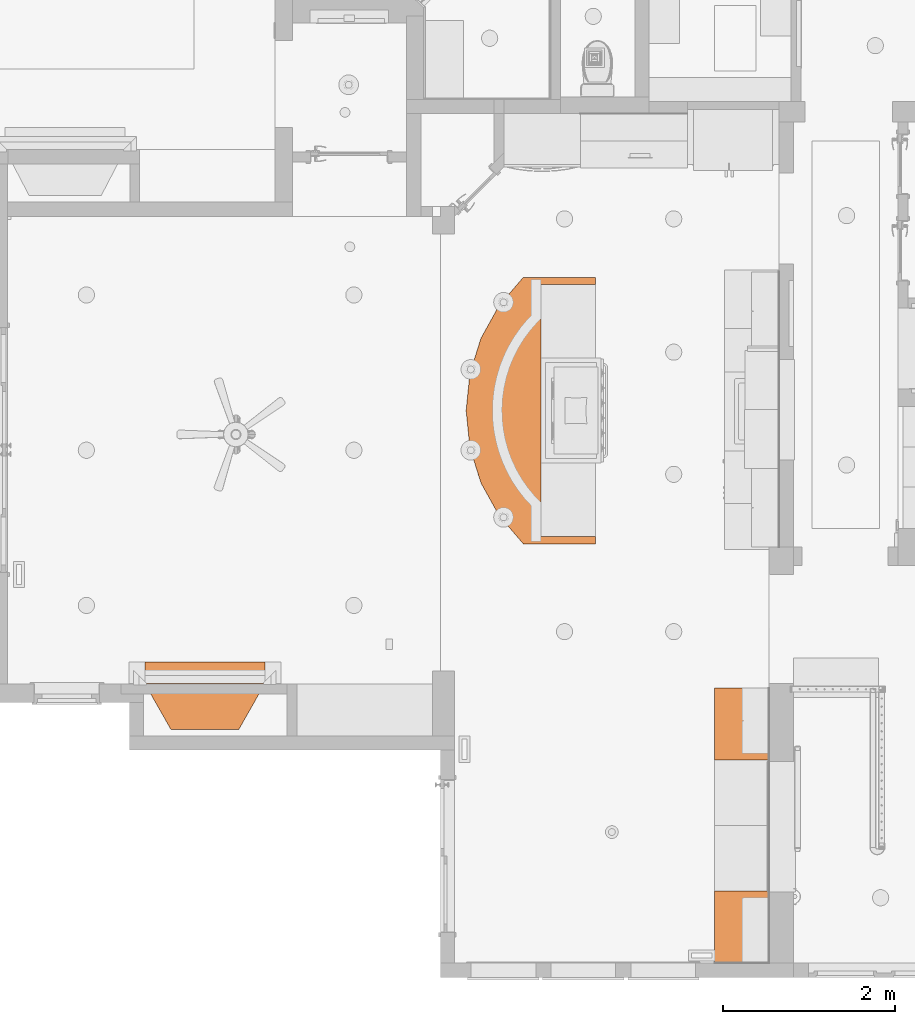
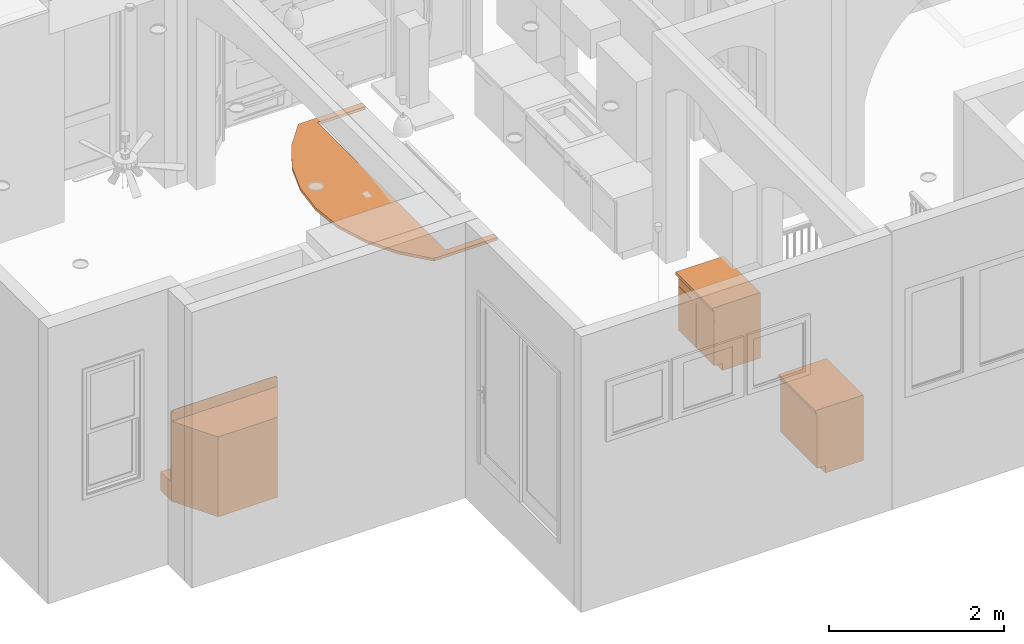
# One storey, part 61 of 77: 4 proxies.
"""IFC2X3 building model written with IfcOpenShell, lengths in inches."""

from ifc_helpers import new_model, entity, si_unit, converted_unit, derived_unit, money_unit, direction, frame, origin_with_axes, place, context, subcontext, project, spatial, faceted_brep, material, type_object, element, save


model = new_model("IFC2X3")

# Units and contexts
model_context = context("Model", 3, precision=0.000393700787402, world=origin_with_axes(), true_north=direction((0.0, 1.0)))
body_context = subcontext(model_context, "Body", "Model", "MODEL_VIEW")
ifc_project = project(units=[converted_unit("LENGTHUNIT", "INCH", entity("IfcPositiveLengthMeasure", 0.0254), si_unit("LENGTHUNIT", "METRE"), dimensions=[1, 0, 0, 0, 0, 0, 0]), converted_unit("AREAUNIT", "SQUARE_FOOT", entity("IfcPositiveLengthMeasure", 0.09290304), si_unit("AREAUNIT", "SQUARE_METRE"), dimensions=[2, 0, 0, 0, 0, 0, 0]), si_unit("PLANEANGLEUNIT", "RADIAN"), si_unit("SOLIDANGLEUNIT", "STERADIAN"), money_unit("USD"), converted_unit("TIMEUNIT", "Year", entity("IfcTimeMeasure", 31556926.0), si_unit("TIMEUNIT", "SECOND"), dimensions=[0, 0, 1, 0, 0, 0, 0]), si_unit("MASSUNIT", "GRAM", prefix="KILO"), si_unit("THERMODYNAMICTEMPERATUREUNIT", "DEGREE_CELSIUS"), si_unit("LUMINOUSINTENSITYUNIT", "LUMEN"), si_unit("ENERGYUNIT", "JOULE", prefix="MEGA"), derived_unit("THERMALCONDUCTANCEUNIT", [(si_unit("POWERUNIT", "WATT"), 1), (si_unit("LENGTHUNIT", "METRE"), -1), (si_unit("THERMODYNAMICTEMPERATUREUNIT", "KELVIN"), -1)]), derived_unit("SPECIFICHEATCAPACITYUNIT", [(si_unit("ENERGYUNIT", "JOULE"), 1), (si_unit("MASSUNIT", "GRAM", prefix="KILO"), -1), (si_unit("THERMODYNAMICTEMPERATUREUNIT", "KELVIN"), -1)]), derived_unit("MASSDENSITYUNIT", [(si_unit("MASSUNIT", "GRAM", prefix="KILO"), 1), (si_unit("VOLUMEUNIT", "CUBIC_METRE"), -1)])], contexts=[model_context])

# Site, building, storey
site_placement = place(None, origin_with_axes())
site = spatial("IfcSite", under=ifc_project, at=site_placement, Name="Site", CompositionType="ELEMENT")
building_placement = place(site_placement, origin_with_axes())
building = spatial("IfcBuilding", under=site, at=building_placement, Name="Building", CompositionType="ELEMENT")
storey_placement = place(building_placement, frame((0.0, 0.0, 127.952755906), z_axis=(0.0, 0.0, 1.0), x_axis=(1.0, 0.0, 0.0)))
storey = spatial("IfcBuildingStorey", under=building, at=storey_placement, Name="Second Floor", CompositionType="ELEMENT", Elevation=127.953)

# Proxies
building_element_proxy_type_1 = type_object("IfcBuildingElementProxyType", Name="Base Cabinet Block 25", PredefinedType="NOTDEFINED")
proxy_1_placement = place(storey_placement, frame((632.966021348, 52.5646529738, 0.0), z_axis=(0.0, 0.0, 1.0), x_axis=(0.0, -1.0, 0.0)))
element("IfcBuildingElementProxy", 1, at=proxy_1_placement, inside=storey, type_object=building_element_proxy_type_1, Name="OBJ-16", context=body_context, shape_type="Brep", body=[
    faceted_brep([(0.0, -25.0000002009, 34.5236220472), (33.0708661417, -25.0000002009, 34.5236220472), (33.0708661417, -25.0000002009, 36.0236220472), (0.0, -25.0000002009, 36.0236220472), (0.0, 0.0, 34.5236220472), (33.0708661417, 0.0, 34.5236220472), (33.0708661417, 0.0, 36.0236220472), (0.0, 0.0, 36.0236220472)], [[[0, 1, 2, 3]], [[0, 4, 5, 1]], [[1, 5, 6, 2]], [[3, 2, 6, 7]], [[4, 0, 3, 7]], [[5, 4, 7, 6]]]),
    faceted_brep([(0.75, -23.2500002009, 28.125), (32.3208661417, -23.2500002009, 28.125), (32.3208661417, -23.2500002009, 28.875), (0.75, -23.2500002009, 28.875), (0.75, -0.75, 28.125), (32.3208661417, -0.75, 28.125), (32.3208661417, -0.75, 28.875), (0.75, -0.75, 28.875)], [[[0, 1, 2, 3]], [[0, 4, 5, 1]], [[1, 5, 6, 2]], [[3, 2, 6, 7]], [[4, 0, 3, 7]], [[5, 4, 7, 6]]]),
    faceted_brep([(32.124015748, -23.2500002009, 29.0718503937), (0.946850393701, -23.2500002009, 29.0718503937), (0.946850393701, -0.75, 29.0718503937), (32.124015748, -0.75, 29.0718503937), (32.124015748, -23.2500002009, 29.4655511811), (0.946850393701, -23.2500002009, 29.4655511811), (0.946850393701, -0.75, 29.4655511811), (32.124015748, -0.75, 29.4655511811)], [[[0, 1, 2, 3]], [[1, 0, 4, 5]], [[2, 1, 5, 6]], [[3, 2, 6, 7]], [[0, 3, 7, 4]], [[5, 4, 7, 6]]]),
    faceted_brep([(1.7342519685, -23.2500002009, 29.4655511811), (0.946850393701, -23.2500002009, 29.4655511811), (0.946850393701, -0.75, 29.4655511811), (1.7342519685, -0.75, 29.4655511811), (1.7342519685, -23.2500002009, 33.5767716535), (0.946850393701, -23.2500002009, 33.5767716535), (0.946850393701, -0.75, 33.5767716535), (1.7342519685, -0.75, 33.5767716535)], [[[0, 1, 2, 3]], [[1, 0, 4, 5]], [[2, 1, 5, 6]], [[3, 2, 6, 7]], [[0, 3, 7, 4]], [[5, 4, 7, 6]]]),
    faceted_brep([(32.124015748, -23.2500002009, 29.4655511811), (31.3366141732, -23.2500002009, 29.4655511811), (31.3366141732, -0.75, 29.4655511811), (32.124015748, -0.75, 29.4655511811), (32.124015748, -23.2500002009, 33.5767716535), (31.3366141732, -23.2500002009, 33.5767716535), (31.3366141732, -0.75, 33.5767716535), (32.124015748, -0.75, 33.5767716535)], [[[0, 1, 2, 3]], [[1, 0, 4, 5]], [[2, 1, 5, 6]], [[3, 2, 6, 7]], [[0, 3, 7, 4]], [[5, 4, 7, 6]]]),
    faceted_brep([(31.3366141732, -1.3405511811, 29.4655511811), (1.7342519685, -1.3405511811, 29.4655511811), (1.7342519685, -0.946850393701, 29.4655511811), (31.3366141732, -0.946850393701, 29.4655511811), (31.3366141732, -1.3405511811, 33.5767716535), (1.7342519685, -1.3405511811, 33.5767716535), (1.7342519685, -0.946850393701, 33.5767716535), (31.3366141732, -0.946850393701, 33.5767716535)], [[[0, 1, 2, 3]], [[1, 0, 4, 5]], [[2, 1, 5, 6]], [[3, 2, 6, 7]], [[0, 3, 7, 4]], [[5, 4, 7, 6]]]),
    faceted_brep([(0.0393700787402, -23.2500002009, 4.03937007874), (16.4960629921, -23.2500002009, 4.03937007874), (16.4960629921, -24.0000002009, 4.03937007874), (0.0393700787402, -24.0000002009, 4.03937007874), (0.0393700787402, -23.2500002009, 28.4606299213), (16.4960629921, -23.2500002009, 28.4606299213), (16.4960629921, -24.0000002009, 28.4606299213), (0.0393700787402, -24.0000002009, 28.4606299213)], [[[0, 1, 2, 3]], [[0, 4, 5, 1]], [[1, 5, 6, 2]], [[3, 2, 6, 7]], [[4, 0, 3, 7]], [[5, 4, 7, 6]]]),
    faceted_brep([(33.031496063, -23.2500002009, 4.03937007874), (33.031496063, -24.0000002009, 4.03937007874), (16.5748031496, -24.0000002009, 4.03937007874), (16.5748031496, -23.2500002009, 4.03937007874), (33.031496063, -23.2500002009, 28.4606299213), (33.031496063, -24.0000002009, 28.4606299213), (16.5748031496, -24.0000002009, 28.4606299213), (16.5748031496, -23.2500002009, 28.4606299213)], [[[0, 1, 2, 3]], [[4, 5, 1, 0]], [[1, 5, 6, 2]], [[3, 2, 6, 7]], [[0, 3, 7, 4]], [[7, 6, 5, 4]]]),
    faceted_brep([(0.0393700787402, -23.2500002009, 28.5393700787), (33.031496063, -23.2500002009, 28.5393700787), (33.031496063, -24.0000002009, 28.5393700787), (0.0393700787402, -24.0000002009, 28.5393700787), (0.0393700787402, -23.2500002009, 34.4842519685), (33.031496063, -23.2500002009, 34.4842519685), (33.031496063, -24.0000002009, 34.4842519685), (0.0393700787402, -24.0000002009, 34.4842519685)], [[[0, 1, 2, 3]], [[0, 4, 5, 1]], [[1, 5, 6, 2]], [[3, 2, 6, 7]], [[4, 0, 3, 7]], [[5, 4, 7, 6]]]),
    faceted_brep([(0.75, -23.2500002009, 4.0), (32.3208661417, -23.2500002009, 4.0), (32.3208661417, -23.2500002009, 4.75), (0.75, -23.2500002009, 4.75), (0.75, 0.0, 4.0), (32.3208661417, 0.0, 4.0), (32.3208661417, 0.0, 4.75), (0.75, 0.0, 4.75)], [[[0, 1, 2, 3]], [[0, 4, 5, 1]], [[1, 5, 6, 2]], [[3, 2, 6, 7]], [[4, 0, 3, 7]], [[5, 4, 7, 6]]]),
    faceted_brep([(0.75, -23.2500002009, 33.7736220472), (0.75, -20.8877954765, 33.7736220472), (32.3208661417, -20.8877954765, 33.7736220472), (32.3208661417, -23.2500002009, 33.7736220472), (0.75, -23.2500002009, 34.5236220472), (0.75, -20.8877954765, 34.5236220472), (32.3208661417, -20.8877954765, 34.5236220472), (32.3208661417, -23.2500002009, 34.5236220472)], [[[0, 1, 2, 3]], [[0, 4, 5, 1]], [[1, 5, 6, 2]], [[3, 2, 6, 7]], [[4, 0, 3, 7]], [[5, 4, 7, 6]]]),
    faceted_brep([(32.3208661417, 0.0, 33.7736220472), (32.3208661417, -2.36220472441, 33.7736220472), (0.75, -2.36220472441, 33.7736220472), (0.75, 0.0, 33.7736220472), (32.3208661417, 0.0, 34.5236220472), (32.3208661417, -2.36220472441, 34.5236220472), (0.75, -2.36220472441, 34.5236220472), (0.75, 0.0, 34.5236220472)], [[[0, 1, 2, 3]], [[0, 4, 5, 1]], [[1, 5, 6, 2]], [[3, 2, 6, 7]], [[4, 0, 3, 7]], [[5, 4, 7, 6]]]),
    faceted_brep([(0.0, 0.0, 4.0), (0.0, -23.2500002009, 4.0), (0.0, -23.2500002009, 34.5236220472), (0.0, 0.0, 34.5236220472), (0.75, 0.0, 4.0), (0.75, -23.2500002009, 4.0), (0.75, -23.2500002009, 34.5236220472), (0.75, 0.0, 34.5236220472)], [[[0, 1, 2, 3]], [[0, 4, 5, 1]], [[1, 5, 6, 2]], [[3, 2, 6, 7]], [[4, 0, 3, 7]], [[5, 4, 7, 6]]]),
    faceted_brep([(33.0708661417, -23.2500002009, 4.0), (33.0708661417, 0.0, 4.0), (33.0708661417, 0.0, 34.5236220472), (33.0708661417, -23.2500002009, 34.5236220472), (32.3208661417, -23.2500002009, 4.0), (32.3208661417, 0.0, 4.0), (32.3208661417, 0.0, 34.5236220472), (32.3208661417, -23.2500002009, 34.5236220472)], [[[0, 1, 2, 3]], [[0, 4, 5, 1]], [[1, 5, 6, 2]], [[3, 2, 6, 7]], [[4, 0, 3, 7]], [[5, 4, 7, 6]]]),
    faceted_brep([(32.3208661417, -0.375, 4.75), (0.75, -0.375, 4.75), (0.75, -0.375, 33.7736220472), (32.3208661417, -0.375, 33.7736220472), (32.3208661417, -0.75, 4.75), (0.75, -0.75, 4.75), (0.75, -0.75, 33.7736220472), (32.3208661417, -0.75, 33.7736220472)], [[[0, 1, 2, 3]], [[0, 4, 5, 1]], [[1, 5, 6, 2]], [[3, 2, 6, 7]], [[4, 0, 3, 7]], [[5, 4, 7, 6]]]),
    faceted_brep([(0.0, -19.7500002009, 0.0), (33.0708661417, -19.7500002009, 0.0), (33.0708661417, -19.7500002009, 4.0), (0.0, -19.7500002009, 4.0), (0.0, 0.0, 0.0), (33.0708661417, 0.0, 0.0), (33.0708661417, 0.0, 4.0), (0.0, 0.0, 4.0)], [[[0, 1, 2, 3]], [[0, 4, 5, 1]], [[1, 5, 6, 2]], [[3, 2, 6, 7]], [[4, 0, 3, 7]], [[5, 4, 7, 6]]]),
])
proxy_2_placement = place(storey_placement, frame((632.966021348, 145.407172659, 0.0), z_axis=(0.0, 0.0, 1.0), x_axis=(0.0, -1.0, 0.0)))
element("IfcBuildingElementProxy", 2, at=proxy_2_placement, inside=storey, type_object=building_element_proxy_type_1, Name="OBJ-16", context=body_context, shape_type="Brep", body=[
    faceted_brep([(0.0, -25.0, 34.5236220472), (33.0708661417, -25.0, 34.5236220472), (33.0708661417, -25.0, 36.0236220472), (0.0, -25.0, 36.0236220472), (0.0, 0.0, 34.5236220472), (33.0708661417, 0.0, 34.5236220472), (33.0708661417, 0.0, 36.0236220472), (0.0, 0.0, 36.0236220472)], [[[0, 1, 2, 3]], [[0, 4, 5, 1]], [[1, 5, 6, 2]], [[3, 2, 6, 7]], [[4, 0, 3, 7]], [[5, 4, 7, 6]]]),
    faceted_brep([(1.5, -23.25, 28.125), (32.3208661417, -23.25, 28.125), (32.3208661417, -23.25, 28.875), (1.5, -23.25, 28.875), (1.5, -0.75, 28.125), (32.3208661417, -0.75, 28.125), (32.3208661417, -0.75, 28.875), (1.5, -0.75, 28.875)], [[[0, 1, 2, 3]], [[0, 4, 5, 1]], [[1, 5, 6, 2]], [[3, 2, 6, 7]], [[4, 0, 3, 7]], [[5, 4, 7, 6]]]),
    faceted_brep([(32.124015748, -23.25, 29.0718503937), (1.6968503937, -23.25, 29.0718503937), (1.6968503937, -0.75, 29.0718503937), (32.124015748, -0.75, 29.0718503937), (32.124015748, -23.25, 29.4655511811), (1.6968503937, -23.25, 29.4655511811), (1.6968503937, -0.75, 29.4655511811), (32.124015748, -0.75, 29.4655511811)], [[[0, 1, 2, 3]], [[1, 0, 4, 5]], [[2, 1, 5, 6]], [[3, 2, 6, 7]], [[0, 3, 7, 4]], [[5, 4, 7, 6]]]),
    faceted_brep([(2.4842519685, -23.25, 29.4655511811), (1.6968503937, -23.25, 29.4655511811), (1.6968503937, -0.75, 29.4655511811), (2.4842519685, -0.75, 29.4655511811), (2.4842519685, -23.25, 33.5767716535), (1.6968503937, -23.25, 33.5767716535), (1.6968503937, -0.75, 33.5767716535), (2.4842519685, -0.75, 33.5767716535)], [[[0, 1, 2, 3]], [[1, 0, 4, 5]], [[2, 1, 5, 6]], [[3, 2, 6, 7]], [[0, 3, 7, 4]], [[5, 4, 7, 6]]]),
    faceted_brep([(32.124015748, -23.25, 29.4655511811), (31.3366141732, -23.25, 29.4655511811), (31.3366141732, -0.75, 29.4655511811), (32.124015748, -0.75, 29.4655511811), (32.124015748, -23.25, 33.5767716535), (31.3366141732, -23.25, 33.5767716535), (31.3366141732, -0.75, 33.5767716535), (32.124015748, -0.75, 33.5767716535)], [[[0, 1, 2, 3]], [[1, 0, 4, 5]], [[2, 1, 5, 6]], [[3, 2, 6, 7]], [[0, 3, 7, 4]], [[5, 4, 7, 6]]]),
    faceted_brep([(31.3366141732, -1.3405511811, 29.4655511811), (2.4842519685, -1.3405511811, 29.4655511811), (2.4842519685, -0.946850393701, 29.4655511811), (31.3366141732, -0.946850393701, 29.4655511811), (31.3366141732, -1.3405511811, 33.5767716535), (2.4842519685, -1.3405511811, 33.5767716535), (2.4842519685, -0.946850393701, 33.5767716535), (31.3366141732, -0.946850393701, 33.5767716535)], [[[0, 1, 2, 3]], [[1, 0, 4, 5]], [[2, 1, 5, 6]], [[3, 2, 6, 7]], [[0, 3, 7, 4]], [[5, 4, 7, 6]]]),
    faceted_brep([(0.78937007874, -23.25, 4.03937007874), (16.8710629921, -23.25, 4.03937007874), (16.8710629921, -24.0, 4.03937007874), (0.78937007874, -24.0, 4.03937007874), (0.78937007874, -23.25, 28.4606299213), (16.8710629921, -23.25, 28.4606299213), (16.8710629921, -24.0, 28.4606299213), (0.78937007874, -24.0, 28.4606299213)], [[[0, 1, 2, 3]], [[0, 4, 5, 1]], [[1, 5, 6, 2]], [[3, 2, 6, 7]], [[4, 0, 3, 7]], [[5, 4, 7, 6]]]),
    faceted_brep([(33.031496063, -23.25, 4.03937007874), (33.031496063, -24.0, 4.03937007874), (16.9498031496, -24.0, 4.03937007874), (16.9498031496, -23.25, 4.03937007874), (33.031496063, -23.25, 28.4606299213), (33.031496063, -24.0, 28.4606299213), (16.9498031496, -24.0, 28.4606299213), (16.9498031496, -23.25, 28.4606299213)], [[[0, 1, 2, 3]], [[4, 5, 1, 0]], [[1, 5, 6, 2]], [[3, 2, 6, 7]], [[0, 3, 7, 4]], [[7, 6, 5, 4]]]),
    faceted_brep([(0.78937007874, -23.25, 28.5393700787), (33.031496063, -23.25, 28.5393700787), (33.031496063, -24.0, 28.5393700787), (0.78937007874, -24.0, 28.5393700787), (0.78937007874, -23.25, 34.4842519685), (33.031496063, -23.25, 34.4842519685), (33.031496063, -24.0, 34.4842519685), (0.78937007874, -24.0, 34.4842519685)], [[[0, 1, 2, 3]], [[0, 4, 5, 1]], [[1, 5, 6, 2]], [[3, 2, 6, 7]], [[4, 0, 3, 7]], [[5, 4, 7, 6]]]),
    faceted_brep([(0.75, -0.0393700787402, 4.03937007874), (0.75, -23.2106299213, 4.03937007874), (0.0, -23.2106299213, 4.03937007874), (0.0, -0.0393700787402, 4.03937007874), (0.75, -0.0393700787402, 34.4842519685), (0.75, -23.2106299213, 34.4842519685), (0.0, -23.2106299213, 34.4842519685), (0.0, -0.0393700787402, 34.4842519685)], [[[0, 1, 2, 3]], [[0, 4, 5, 1]], [[1, 5, 6, 2]], [[3, 2, 6, 7]], [[4, 0, 3, 7]], [[5, 4, 7, 6]]]),
    faceted_brep([(1.5, -23.25, 4.0), (32.3208661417, -23.25, 4.0), (32.3208661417, -23.25, 4.75), (1.5, -23.25, 4.75), (1.5, 0.0, 4.0), (32.3208661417, 0.0, 4.0), (32.3208661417, 0.0, 4.75), (1.5, 0.0, 4.75)], [[[0, 1, 2, 3]], [[0, 4, 5, 1]], [[1, 5, 6, 2]], [[3, 2, 6, 7]], [[4, 0, 3, 7]], [[5, 4, 7, 6]]]),
    faceted_brep([(1.5, -23.25, 33.7736220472), (1.5, -20.8877952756, 33.7736220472), (32.3208661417, -20.8877952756, 33.7736220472), (32.3208661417, -23.25, 33.7736220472), (1.5, -23.25, 34.5236220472), (1.5, -20.8877952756, 34.5236220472), (32.3208661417, -20.8877952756, 34.5236220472), (32.3208661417, -23.25, 34.5236220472)], [[[0, 1, 2, 3]], [[0, 4, 5, 1]], [[1, 5, 6, 2]], [[3, 2, 6, 7]], [[4, 0, 3, 7]], [[5, 4, 7, 6]]]),
    faceted_brep([(32.3208661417, 0.0, 33.7736220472), (32.3208661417, -2.36220472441, 33.7736220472), (1.5, -2.36220472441, 33.7736220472), (1.5, 0.0, 33.7736220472), (32.3208661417, 0.0, 34.5236220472), (32.3208661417, -2.36220472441, 34.5236220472), (1.5, -2.36220472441, 34.5236220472), (1.5, 0.0, 34.5236220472)], [[[0, 1, 2, 3]], [[0, 4, 5, 1]], [[1, 5, 6, 2]], [[3, 2, 6, 7]], [[4, 0, 3, 7]], [[5, 4, 7, 6]]]),
    faceted_brep([(0.75, 0.0, 4.0), (0.75, -23.25, 4.0), (0.75, -23.25, 34.5236220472), (0.75, 0.0, 34.5236220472), (1.5, 0.0, 4.0), (1.5, -23.25, 4.0), (1.5, -23.25, 34.5236220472), (1.5, 0.0, 34.5236220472)], [[[0, 1, 2, 3]], [[0, 4, 5, 1]], [[1, 5, 6, 2]], [[3, 2, 6, 7]], [[4, 0, 3, 7]], [[5, 4, 7, 6]]]),
    faceted_brep([(33.0708661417, -23.25, 4.0), (33.0708661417, 0.0, 4.0), (33.0708661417, 0.0, 34.5236220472), (33.0708661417, -23.25, 34.5236220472), (32.3208661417, -23.25, 4.0), (32.3208661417, 0.0, 4.0), (32.3208661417, 0.0, 34.5236220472), (32.3208661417, -23.25, 34.5236220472)], [[[0, 1, 2, 3]], [[0, 4, 5, 1]], [[1, 5, 6, 2]], [[3, 2, 6, 7]], [[4, 0, 3, 7]], [[5, 4, 7, 6]]]),
    faceted_brep([(32.3208661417, -0.375, 4.75), (1.5, -0.375, 4.75), (1.5, -0.375, 33.7736220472), (32.3208661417, -0.375, 33.7736220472), (32.3208661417, -0.75, 4.75), (1.5, -0.75, 4.75), (1.5, -0.75, 33.7736220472), (32.3208661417, -0.75, 33.7736220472)], [[[0, 1, 2, 3]], [[0, 4, 5, 1]], [[1, 5, 6, 2]], [[3, 2, 6, 7]], [[4, 0, 3, 7]], [[5, 4, 7, 6]]]),
    faceted_brep([(0.75, -19.75, 0.0), (33.0708661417, -19.75, 0.0), (33.0708661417, -19.75, 4.0), (0.75, -19.75, 4.0), (0.75, 0.0, 0.0), (33.0708661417, 0.0, 0.0), (33.0708661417, 0.0, 4.0), (0.75, 0.0, 4.0)], [[[0, 1, 2, 3]], [[0, 4, 5, 1]], [[1, 5, 6, 2]], [[3, 2, 6, 7]], [[4, 0, 3, 7]], [[5, 4, 7, 6]]]),
])
building_element_proxy_type_2 = type_object("IfcBuildingElementProxyType", Name="Fireplace-Traditional 25", PredefinedType="NOTDEFINED")
proxy_3_placement = place(storey_placement, frame((402.042458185, 148.406949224, 0.0), z_axis=(0.0, 0.0, 1.0), x_axis=(-1.0, 0.0, 0.0)))
element("IfcBuildingElementProxy", 3, at=proxy_3_placement, inside=storey, type_object=building_element_proxy_type_2, Name="FU - 003", context=body_context, shape_type="Brep", body=[
    faceted_brep([(0.703683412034, 0.750002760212, 49.0157397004), (0.703683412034, 1.0, 49.0157397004), (0.0, 1.0, 49.0157397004), (0.0, 0.0463193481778, 49.0157397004), (0.0, 0.0118119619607, 49.0157397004), (54.9212598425, 0.0118119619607, 49.0157397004), (54.9212598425, 1.0, 49.0157397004), (54.191615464, 1.0, 49.0157397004), (54.1916154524, 0.750002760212, 49.0157397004), (0.703683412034, 0.750002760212, 50.0), (0.703683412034, 1.0, 50.0), (54.191615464, 1.0, 50.0), (54.9212598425, 1.0, 42.25), (0.0, 1.0, 42.25), (0.0, 0.0, 42.25), (0.0, 0.0, 49.1811428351), (54.9212598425, 0.0, 49.1811428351), (54.9212598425, 0.0, 42.25), (54.1916154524, 0.750002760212, 50.0)], [[[0, 1, 2, 3, 4, 5, 6, 7, 8]], [[0, 9, 10, 1]], [[1, 10, 11, 7, 6, 12, 13, 2]], [[3, 2, 13, 14, 15, 4]], [[16, 5, 4, 15]], [[12, 6, 5, 16, 17]], [[7, 11, 18, 8]], [[9, 0, 8, 18]], [[10, 9, 18, 11]], [[13, 12, 17, 14]], [[14, 17, 16, 15]]]),
    faceted_brep([(47.4606299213, 1.0, 11.25), (47.4606299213, 0.75, 11.25), (43.4606299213, 0.75, 11.25), (43.4606299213, 1.0, 11.25), (47.4606299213, 0.75, 42.25), (47.4606299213, 1.0, 42.25), (43.4606299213, 0.75, 42.25), (43.4606299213, 1.0, 42.25)], [[[0, 1, 2, 3]], [[4, 1, 0, 5]], [[6, 2, 1, 4]], [[7, 3, 2, 6]], [[5, 0, 3, 7]], [[7, 6, 4, 5]]]),
    faceted_brep([(0.0, 0.0, 11.25), (0.0, 0.0, 0.0), (54.9212598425, 0.0, 0.0), (54.9212598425, 0.0, 11.25), (0.0, 1.0, 11.25), (0.0, 1.0, 0.0), (54.9212598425, 1.0, 0.0), (54.9212598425, 1.0, 11.25)], [[[0, 1, 2, 3]], [[4, 5, 1, 0]], [[2, 1, 5, 6]], [[3, 2, 6, 7]], [[4, 0, 3, 7]], [[7, 6, 5, 4]]]),
    faceted_brep([(7.46062992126, 1.0, 11.25), (7.46062992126, 0.0, 11.25), (0.0, 0.0, 11.25), (0.0, 1.0, 11.25), (7.46062992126, 0.0, 42.25), (7.46062992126, 1.0, 42.25), (0.0, 0.0, 42.25), (0.0, 1.0, 42.25)], [[[0, 1, 2, 3]], [[4, 1, 0, 5]], [[6, 2, 1, 4]], [[7, 3, 2, 6]], [[5, 0, 3, 7]], [[7, 6, 4, 5]]]),
    faceted_brep([(54.9212598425, 1.0, 11.25), (54.9212598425, 0.0, 11.25), (47.4606299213, 0.0, 11.25), (47.4606299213, 1.0, 11.25), (54.9212598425, 0.0, 42.25), (54.9212598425, 1.0, 42.25), (47.4606299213, 0.0, 42.25), (47.4606299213, 1.0, 42.25)], [[[0, 1, 2, 3]], [[4, 1, 0, 5]], [[6, 2, 1, 4]], [[7, 3, 2, 6]], [[5, 0, 3, 7]], [[7, 6, 4, 5]]]),
    faceted_brep([(12.5425445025, 21.0472440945, 44.0), (12.5425445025, 21.0472440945, 0.0), (42.37871534, 21.0472440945, 0.0), (42.37871534, 21.0472440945, 44.0), (1.15018992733, 1.0, 44.0), (1.15018992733, 1.0, 0.0), (0.0, 1.0, 0.0), (11.9606299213, 22.0472440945, 0.0), (42.9606299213, 22.0472440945, 0.0), (54.9212598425, 1.0, 0.0), (53.7710699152, 1.0, 0.0), (53.7710699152, 1.0, 44.0), (54.9212598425, 1.0, 44.0), (42.9606299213, 22.0472440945, 44.0), (11.9606299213, 22.0472440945, 44.0), (0.0, 1.0, 44.0)], [[[0, 1, 2, 3]], [[4, 5, 1, 0]], [[2, 1, 5, 6, 7, 8, 9, 10]], [[3, 2, 10, 11]], [[4, 0, 3, 11, 12, 13, 14, 15]], [[15, 6, 5, 4]], [[14, 7, 6, 15]], [[13, 8, 7, 14]], [[12, 9, 8, 13]], [[11, 10, 9, 12]]]),
    faceted_brep([(1.15018992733, 1.0, 10.25), (1.15018992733, 1.0, 0.0), (53.7710699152, 1.0, 0.0), (53.7710699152, 1.0, 10.25), (12.5425445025, 21.0472440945, 10.25), (12.5425445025, 21.0472440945, 0.0), (42.37871534, 21.0472440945, 0.0), (42.37871534, 21.0472440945, 10.25)], [[[0, 1, 2, 3]], [[4, 5, 1, 0]], [[2, 1, 5, 6]], [[3, 2, 6, 7]], [[4, 0, 3, 7]], [[7, 6, 5, 4]]]),
    faceted_brep([(1.15018992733, 1.0, 44.0), (1.15018992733, 1.0, 43.25), (53.7710699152, 1.0, 43.25), (53.7710699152, 1.0, 44.0), (12.5425445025, 21.0472440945, 44.0), (12.5425445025, 21.0472440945, 43.25), (42.37871534, 21.0472440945, 43.25), (42.37871534, 21.0472440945, 44.0)], [[[0, 1, 2, 3]], [[4, 5, 1, 0]], [[2, 1, 5, 6]], [[3, 2, 6, 7]], [[4, 0, 3, 7]], [[7, 6, 5, 4]]]),
    faceted_brep([(1.15018992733, 1.0, 43.25), (1.15018992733, 1.0, 10.25), (3.41434332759, 1.0, 10.25), (3.41434332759, 1.0, 43.25), (12.5425445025, 21.0472440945, 43.25), (12.5425445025, 21.0472440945, 10.25), (42.37871534, 21.0472440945, 10.25), (53.7710699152, 1.0, 10.25), (51.5069165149, 1.0, 10.25), (41.2332141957, 19.0787401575, 10.25), (13.6880456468, 19.0787401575, 10.25), (13.6880456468, 19.0787401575, 43.25), (41.2332141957, 19.0787401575, 43.25), (51.5069165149, 1.0, 43.25), (53.7710699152, 1.0, 43.25), (42.37871534, 21.0472440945, 43.25)], [[[0, 1, 2, 3]], [[4, 5, 1, 0]], [[2, 1, 5, 6, 7, 8, 9, 10]], [[3, 2, 10, 11]], [[4, 0, 3, 11, 12, 13, 14, 15]], [[15, 6, 5, 4]], [[14, 7, 6, 15]], [[13, 8, 7, 14]], [[12, 9, 8, 13]], [[11, 10, 9, 12]]]),
    faceted_brep([(0.0, 0.0, 10.25), (0.0, 0.0, 0.0), (0.0, -9.0, 0.0), (0.0, -9.0, 10.25), (54.9212598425, 0.0, 10.25), (54.9212598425, 0.0, 0.0), (54.9212598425, -9.0, 0.0), (54.9212598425, -9.0, 10.25)], [[[0, 1, 2, 3]], [[4, 5, 1, 0]], [[2, 1, 5, 6]], [[3, 2, 6, 7]], [[4, 0, 3, 7]], [[7, 6, 5, 4]]]),
    faceted_brep([(11.4606299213, 1.0, 11.25), (11.4606299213, 0.75, 11.25), (7.46062992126, 0.75, 11.25), (7.46062992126, 1.0, 11.25), (11.4606299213, 0.75, 42.25), (11.4606299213, 1.0, 42.25), (7.46062992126, 0.75, 42.25), (7.46062992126, 1.0, 42.25)], [[[0, 1, 2, 3]], [[4, 1, 0, 5]], [[6, 2, 1, 4]], [[7, 3, 2, 6]], [[5, 0, 3, 7]], [[7, 6, 4, 5]]]),
])
ifc_material = material(Name="Timber - Structural")
building_element_proxy_type_3 = type_object("IfcBuildingElementProxyType", Name="Timber - Structural", PredefinedType="NOTDEFINED")
proxy_4_placement = place(storey_placement, frame((3064.04583568, 1104.52324888, 31.9824466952), z_axis=(0.0, 0.0, 1.0), x_axis=(1.0, 0.0, 0.0)))
element("IfcBuildingElementProxy", 4, at=proxy_4_placement, inside=storey, type_object=building_element_proxy_type_3, material=ifc_material, Name="MORPH-012", context=body_context, shape_type="Brep", body=[
    faceted_brep([(-2563.02544133, -865.318184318, 2.0), (-2563.01698855, -865.319329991, 0.497868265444), (-2554.73700093, -880.218064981, 2.0), (-2568.1195584, -849.066308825, 0.497868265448), (-2554.74690651, -880.212370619, 0.497868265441), (-2563.01698855, -865.319329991, 2.07267141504), (-2568.13189703, -849.050769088, 2.0), (-2569.84568136, -832.118818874, 0.497868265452), (-2568.12467793, -815.170808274, 0.497868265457), (-2563.02701798, -798.916246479, 0.497868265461), (-2554.76143517, -784.020708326, 0.497868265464), (-2543.66637995, -771.09412077, 0.497868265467), (-2510.5937138, -771.09412077, 0.497868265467), (-2510.5937138, -774.427842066, 0.497868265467), (-2535.5937138, -774.427842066, 0.497868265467), (-2535.5937138, -808.181796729, 0.497868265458), (-2535.5937138, -842.371657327, 0.49786826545), (-2535.5937138, -856.1749761, 0.497868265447), (-2535.5937138, -889.782172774, 0.497868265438), (-2510.5937138, -889.782172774, 0.497868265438), (-2510.5937138, -893.135606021, 0.497868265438), (-2543.64794697, -893.135606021, 0.497868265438), (-2568.1195584, -849.066308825, 2.07267141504), (-2554.74690651, -880.212370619, 2.07267141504), (-2568.0960261, -815.126997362, 2.0), (-2562.9551796, -798.870417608, 2.0), (-2554.7286723, -783.997636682, 2.0), (-2543.66637995, -771.09412077, 2.0), (-2543.66637995, -771.09412077, 2.07267141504), (-2510.5937138, -771.09412077, 2.07267141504), (-2510.5937138, -774.427842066, 2.07267141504), (-2535.5937138, -774.427842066, 2.07267141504), (-2535.5937138, -808.181796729, 2.07267141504), (-2535.5937138, -808.181796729, 2.0), (-2535.5937138, -842.371657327, 0.575220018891), (-2535.5937138, -856.1749761, 2.07267141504), (-2535.5937138, -889.782172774, 2.07267141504), (-2510.5937138, -889.782172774, 2.07267141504), (-2510.5937138, -893.135606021, 2.07267141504), (-2543.64794697, -893.135606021, 2.0), (-2543.64794697, -893.135606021, 2.07267141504), (-2554.76143517, -784.020708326, 2.07267141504), (-2563.02701798, -798.916246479, 2.07267141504), (-2568.12467793, -815.170808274, 2.07267141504), (-2569.84568136, -832.118818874, 2.07267141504)], [[[0, 1, 2]], [[0, 3, 1]], [[1, 4, 2]], [[5, 0, 2]], [[3, 0, 6]], [[3, 7, 8, 9, 10, 11, 12, 13, 14, 15, 16, 17, 18, 19, 20, 21, 4, 1]], [[21, 2, 4]], [[5, 22, 0]], [[5, 2, 23]], [[0, 22, 6]], [[3, 6, 7]], [[8, 7, 24]], [[8, 24, 9]], [[10, 9, 25]], [[11, 10, 26]], [[11, 27, 28, 29, 12]], [[30, 13, 12, 29]], [[14, 13, 30, 31]], [[15, 14, 31, 32, 33]], [[16, 15, 33, 34]], [[17, 16, 34, 33, 32, 35]], [[36, 18, 17, 35]], [[18, 36, 37, 19]], [[20, 19, 37, 38]], [[39, 21, 20, 38, 40]], [[21, 39, 2]], [[22, 5, 23, 40, 38, 37, 36, 35, 32, 31, 30, 29, 28, 41, 42, 43, 44]], [[39, 23, 2]], [[22, 44, 6]], [[7, 6, 44]], [[7, 44, 24]], [[9, 24, 25]], [[10, 25, 26]], [[11, 26, 27]], [[27, 26, 28]], [[23, 39, 40]], [[26, 41, 28]], [[25, 42, 41]], [[43, 42, 25]], [[44, 43, 24]], [[24, 43, 25]], [[25, 41, 26]]]),
])

save(model, "model.ifc")
